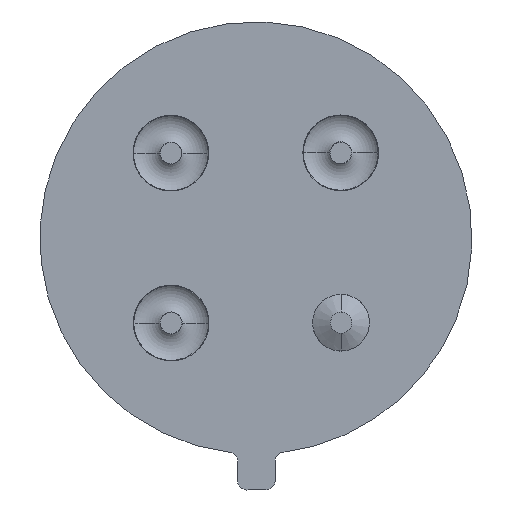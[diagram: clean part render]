
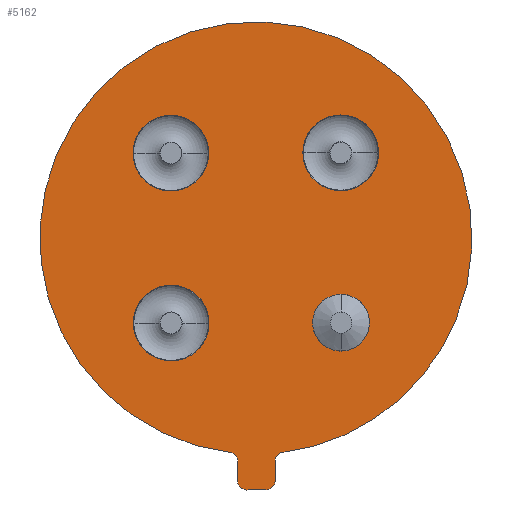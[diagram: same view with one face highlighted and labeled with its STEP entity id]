
A CAD part, front view. The second image highlights one B-rep face of the part: STEP entity #5162.
In plain terms, the highlighted planar face has unit normal (0, -1, 0).
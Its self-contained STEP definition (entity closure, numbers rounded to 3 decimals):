
#4646=CARTESIAN_POINT('',(0.,0.,0.));
#4647=DIRECTION('',(0.,-1.,0.));
#4648=DIRECTION('',(0.,0.,1.));
#4649=AXIS2_PLACEMENT_3D('',#4646,#4647,#4648);
#4651=CARTESIAN_POINT('',(0.,0.,0.));
#4652=DIRECTION('',(0.,-1.,0.));
#4653=DIRECTION('',(0.,0.,-1.));
#4654=AXIS2_PLACEMENT_3D('',#4651,#4652,#4653);
#4656=CARTESIAN_POINT('',(0.,0.,0.));
#4657=DIRECTION('',(0.,-1.,0.));
#4658=DIRECTION('',(-0.874,0.,-0.486));
#4659=AXIS2_PLACEMENT_3D('',#4656,#4657,#4658);
#4661=CARTESIAN_POINT('',(-4.135,0.,-2.362));
#4662=DIRECTION('',(0.,1.,0.));
#4663=DIRECTION('',(0.,0.,1.));
#4664=AXIS2_PLACEMENT_3D('',#4661,#4662,#4663);
#4666=CARTESIAN_POINT('',(-4.135,0.,-2.362));
#4667=DIRECTION('',(0.,1.,0.));
#4668=DIRECTION('',(-0.382,0.,0.924));
#4669=AXIS2_PLACEMENT_3D('',#4666,#4667,#4668);
#4671=DIRECTION('',(0.924,0.,0.382));
#4672=VECTOR('',#4671,0.406);
#4673=CARTESIAN_POINT('',(-4.586,0.,-2.333));
#4674=LINE('',#4673,#4672);
#4675=CARTESIAN_POINT('',(-4.663,0.,-2.148));
#4676=DIRECTION('',(0.,-1.,0.));
#4677=DIRECTION('',(0.,0.,-1.));
#4678=AXIS2_PLACEMENT_3D('',#4675,#4676,#4677);
#4680=CARTESIAN_POINT('',(-4.663,0.,-2.148));
#4681=DIRECTION('',(0.,-1.,0.));
#4682=DIRECTION('',(-0.924,0.,-0.383));
#4683=AXIS2_PLACEMENT_3D('',#4680,#4681,#4682);
#4685=DIRECTION('',(0.383,0.,-0.924));
#4686=VECTOR('',#4685,0.399);
#4687=CARTESIAN_POINT('',(-5.,0.,-1.856));
#4688=LINE('',#4687,#4686);
#4689=CARTESIAN_POINT('',(-4.816,0.,-1.78));
#4690=DIRECTION('',(0.,-1.,0.));
#4691=DIRECTION('',(-0.376,0.,0.927));
#4692=AXIS2_PLACEMENT_3D('',#4689,#4690,#4691);
#4694=DIRECTION('',(-0.927,0.,-0.376));
#4695=VECTOR('',#4694,0.403);
#4696=CARTESIAN_POINT('',(-4.517,0.,-1.443));
#4697=LINE('',#4696,#4695);
#4698=CARTESIAN_POINT('',(-4.592,0.,-1.257));
#4699=DIRECTION('',(0.,1.,0.));
#4700=DIRECTION('',(1.,0.,-0.022));
#4701=AXIS2_PLACEMENT_3D('',#4698,#4699,#4700);
#4703=CARTESIAN_POINT('',(-0.972,0.,-2.347));
#4704=DIRECTION('',(0.,1.,0.));
#4705=DIRECTION('',(0.,0.,1.));
#4706=AXIS2_PLACEMENT_3D('',#4703,#4704,#4705);
#4708=CARTESIAN_POINT('',(-0.972,0.,-2.347));
#4709=DIRECTION('',(0.,1.,0.));
#4710=DIRECTION('',(0.,0.,-1.));
#4711=AXIS2_PLACEMENT_3D('',#4708,#4709,#4710);
#4713=CARTESIAN_POINT('',(0.972,0.,2.347));
#4714=DIRECTION('',(0.,1.,0.));
#4715=DIRECTION('',(0.,0.,1.));
#4716=AXIS2_PLACEMENT_3D('',#4713,#4714,#4715);
#4718=CARTESIAN_POINT('',(0.972,0.,2.347));
#4719=DIRECTION('',(0.,1.,0.));
#4720=DIRECTION('',(0.,0.,-1.));
#4721=AXIS2_PLACEMENT_3D('',#4718,#4719,#4720);
#4723=CARTESIAN_POINT('',(2.347,0.,-0.972));
#4724=DIRECTION('',(0.,1.,0.));
#4725=DIRECTION('',(0.,0.,1.));
#4726=AXIS2_PLACEMENT_3D('',#4723,#4724,#4725);
#4728=CARTESIAN_POINT('',(2.347,0.,-0.972));
#4729=DIRECTION('',(0.,1.,0.));
#4730=DIRECTION('',(0.,0.,-1.));
#4731=AXIS2_PLACEMENT_3D('',#4728,#4729,#4730);
#4733=CARTESIAN_POINT('',(-2.347,0.,0.972));
#4734=DIRECTION('',(0.,1.,0.));
#4735=DIRECTION('',(0.,0.,1.));
#4736=AXIS2_PLACEMENT_3D('',#4733,#4734,#4735);
#4738=CARTESIAN_POINT('',(-2.347,0.,0.972));
#4739=DIRECTION('',(0.,1.,0.));
#4740=DIRECTION('',(0.,0.,-1.));
#4741=AXIS2_PLACEMENT_3D('',#4738,#4739,#4740);
#4822=CARTESIAN_POINT('',(-4.586,0.,-2.333));
#4824=VERTEX_POINT('',#4822);
#4825=CARTESIAN_POINT('',(-0.972,0.,-2.947));
#4826=CARTESIAN_POINT('',(-0.972,0.,-1.747));
#4827=VERTEX_POINT('',#4825);
#4828=VERTEX_POINT('',#4826);
#4829=CARTESIAN_POINT('',(-2.347,0.,1.772));
#4831=VERTEX_POINT('',#4829);
#4845=CARTESIAN_POINT('',(0.972,0.,3.147));
#4847=VERTEX_POINT('',#4845);
#4849=CARTESIAN_POINT('',(0.972,0.,1.547));
#4851=VERTEX_POINT('',#4849);
#4853=CARTESIAN_POINT('',(-4.848,0.,-2.225));
#4854=CARTESIAN_POINT('',(-4.663,0.,-2.348));
#4855=VERTEX_POINT('',#4853);
#4856=VERTEX_POINT('',#4854);
#4859=CARTESIAN_POINT('',(-2.347,0.,0.172));
#4860=VERTEX_POINT('',#4859);
#4871=CARTESIAN_POINT('',(2.347,0.,-0.172));
#4872=CARTESIAN_POINT('',(2.347,0.,-1.772));
#4873=VERTEX_POINT('',#4871);
#4874=VERTEX_POINT('',#4872);
#4882=CARTESIAN_POINT('',(-5.,0.,-1.856));
#4884=VERTEX_POINT('',#4882);
#4893=CARTESIAN_POINT('',(-4.517,0.,-1.443));
#4894=VERTEX_POINT('',#4893);
#4895=CARTESIAN_POINT('',(-4.891,0.,-1.594));
#4896=VERTEX_POINT('',#4895);
#4897=CARTESIAN_POINT('',(0.,0.,-4.57));
#4898=CARTESIAN_POINT('',(0.,0.,4.57));
#4899=VERTEX_POINT('',#4897);
#4900=VERTEX_POINT('',#4898);
#4901=CARTESIAN_POINT('',(-4.211,0.,-2.177));
#4902=CARTESIAN_POINT('',(-4.135,0.,-2.162));
#4903=VERTEX_POINT('',#4901);
#4904=VERTEX_POINT('',#4902);
#4905=CARTESIAN_POINT('',(-3.995,0.,-2.219));
#4906=VERTEX_POINT('',#4905);
#4907=CARTESIAN_POINT('',(-4.392,0.,-1.262));
#4908=VERTEX_POINT('',#4907);
#5110=CARTESIAN_POINT('',(0.,0.,0.));
#5111=DIRECTION('',(0.,-1.,0.));
#5112=DIRECTION('',(0.,0.,-1.));
#5113=AXIS2_PLACEMENT_3D('',#5110,#5111,#5112);
#5114=PLANE('',#5113);
#5115=ORIENTED_EDGE('',*,*,#5100,.F.);
#5117=ORIENTED_EDGE('',*,*,#5116,.F.);
#5119=ORIENTED_EDGE('',*,*,#5118,.F.);
#5121=ORIENTED_EDGE('',*,*,#5120,.F.);
#5123=ORIENTED_EDGE('',*,*,#5122,.F.);
#5125=ORIENTED_EDGE('',*,*,#5124,.F.);
#5127=ORIENTED_EDGE('',*,*,#5126,.F.);
#5129=ORIENTED_EDGE('',*,*,#5128,.F.);
#5131=ORIENTED_EDGE('',*,*,#5130,.F.);
#5133=ORIENTED_EDGE('',*,*,#5132,.F.);
#5135=ORIENTED_EDGE('',*,*,#5134,.F.);
#5137=ORIENTED_EDGE('',*,*,#5136,.F.);
#5138=EDGE_LOOP('',(#5115,#5117,#5119,#5121,#5123,#5125,#5127,#5129,#5131,#5133,
#5135,#5137));
#5139=FACE_OUTER_BOUND('',#5138,.F.);
#5141=ORIENTED_EDGE('',*,*,#5140,.F.);
#5143=ORIENTED_EDGE('',*,*,#5142,.F.);
#5144=EDGE_LOOP('',(#5141,#5143));
#5145=FACE_BOUND('',#5144,.F.);
#5146=ORIENTED_EDGE('',*,*,#4924,.F.);
#5147=ORIENTED_EDGE('',*,*,#4941,.F.);
#5148=EDGE_LOOP('',(#5146,#5147));
#5149=FACE_BOUND('',#5148,.F.);
#5151=ORIENTED_EDGE('',*,*,#5150,.F.);
#5153=ORIENTED_EDGE('',*,*,#5152,.F.);
#5154=EDGE_LOOP('',(#5151,#5153));
#5155=FACE_BOUND('',#5154,.F.);
#5157=ORIENTED_EDGE('',*,*,#5156,.F.);
#5159=ORIENTED_EDGE('',*,*,#5158,.F.);
#5160=EDGE_LOOP('',(#5157,#5159));
#5161=FACE_BOUND('',#5160,.F.);
#4650=CIRCLE('',#4649,4.57);
#4655=CIRCLE('',#4654,4.57);
#4660=CIRCLE('',#4659,4.57);
#4665=CIRCLE('',#4664,0.2);
#4670=CIRCLE('',#4669,0.2);
#4679=CIRCLE('',#4678,0.2);
#4684=CIRCLE('',#4683,0.2);
#4693=CIRCLE('',#4692,0.2);
#4702=CIRCLE('',#4701,0.2);
#4707=CIRCLE('',#4706,0.6);
#4712=CIRCLE('',#4711,0.6);
#4717=CIRCLE('',#4716,0.8);
#4722=CIRCLE('',#4721,0.8);
#4727=CIRCLE('',#4726,0.8);
#4732=CIRCLE('',#4731,0.8);
#4737=CIRCLE('',#4736,0.8);
#4742=CIRCLE('',#4741,0.8);
#4924=EDGE_CURVE('',#4847,#4851,#4717,.T.);
#4941=EDGE_CURVE('',#4851,#4847,#4722,.T.);
#5100=EDGE_CURVE('',#4900,#4908,#4650,.T.);
#5116=EDGE_CURVE('',#4899,#4900,#4655,.T.);
#5118=EDGE_CURVE('',#4906,#4899,#4660,.T.);
#5120=EDGE_CURVE('',#4904,#4906,#4665,.T.);
#5122=EDGE_CURVE('',#4903,#4904,#4670,.T.);
#5124=EDGE_CURVE('',#4824,#4903,#4674,.T.);
#5126=EDGE_CURVE('',#4856,#4824,#4679,.T.);
#5128=EDGE_CURVE('',#4855,#4856,#4684,.T.);
#5130=EDGE_CURVE('',#4884,#4855,#4688,.T.);
#5132=EDGE_CURVE('',#4896,#4884,#4693,.T.);
#5134=EDGE_CURVE('',#4894,#4896,#4697,.T.);
#5136=EDGE_CURVE('',#4908,#4894,#4702,.T.);
#5140=EDGE_CURVE('',#4828,#4827,#4707,.T.);
#5142=EDGE_CURVE('',#4827,#4828,#4712,.T.);
#5150=EDGE_CURVE('',#4873,#4874,#4727,.T.);
#5152=EDGE_CURVE('',#4874,#4873,#4732,.T.);
#5156=EDGE_CURVE('',#4831,#4860,#4737,.T.);
#5158=EDGE_CURVE('',#4860,#4831,#4742,.T.);
#5162=ADVANCED_FACE('',(#5139,#5145,#5149,#5155,#5161),#5114,.T.);
